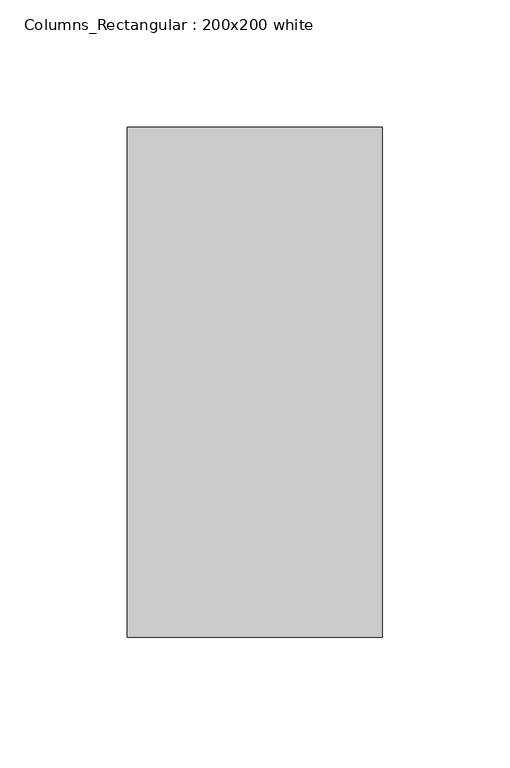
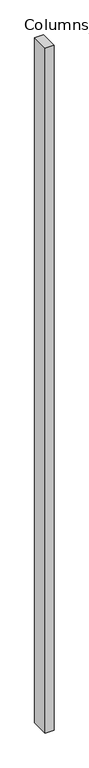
"""IFC4 building model written with IfcOpenShell, lengths in millimetres: column geometry, Columns_Rectangular : 200x200 white."""

from ifc_helpers import new_model, si_unit, frame, origin, place, context, project, spatial, polyline, outline, extrude, source, transform, mapped, element, save


def columns_rectangular_200x200_white_1cd67d43(model_context):
    return source(origin(), model_context, "Body", "SweptSolid", [
        extrude(outline(polyline([(50.0, 100.0), (50.0, -100.0), (-50.0, -100.0), (-50.0, 100.0), (50.0, 100.0)])), frame((0.0, 0.0, 5800.0), z_axis=(0.0, 0.0, 1.0), x_axis=(1.0, 0.0, 0.0)), (0.0, 0.0, 1.0), 8000.0),
    ])


if __name__ == "__main__":
    model = new_model("IFC4")
    model_context = context("Model", 3, world=origin())
    ifc_project = project(units=[si_unit("LENGTHUNIT", "METRE", prefix="MILLI")], contexts=[model_context])
    site = spatial("IfcSite", under=ifc_project)
    building = spatial("IfcBuilding", under=site)
    placement = place(None, origin())
    columns_rectangular_200x200_white_shape = columns_rectangular_200x200_white_1cd67d43(model_context)
    element("IfcColumn", 1, ObjectType="Columns_Rectangular : 200x200 white", at=placement, inside=building, context=model_context, shape_type="MappedRepresentation", body=[
        mapped(columns_rectangular_200x200_white_shape, transform((0.0, 0.0, 0.0), x_axis=(1.0, 0.0, 0.0), y_axis=(0.0, 1.0, 0.0), z_axis=(0.0, 0.0, 1.0))),
    ])
    save(model, "model.ifc")
